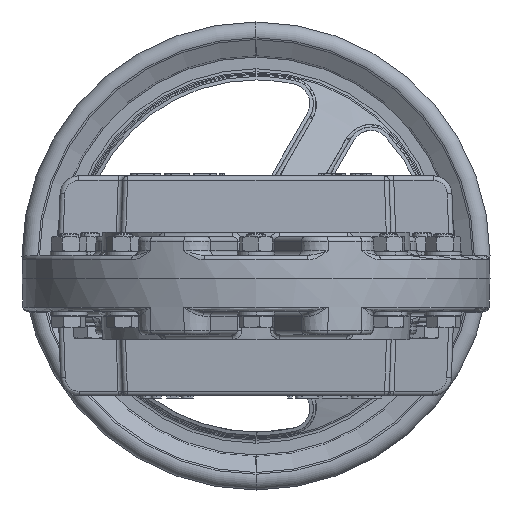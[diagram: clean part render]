
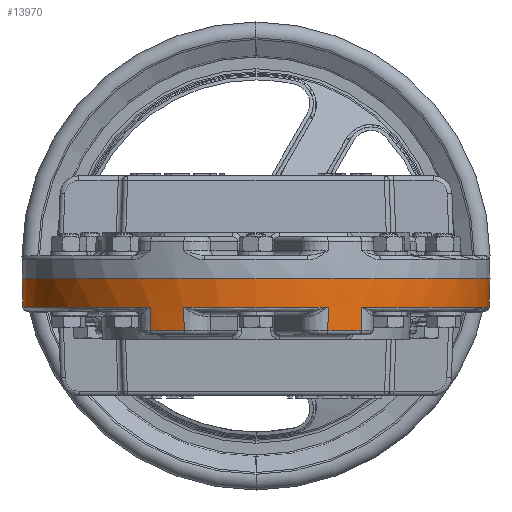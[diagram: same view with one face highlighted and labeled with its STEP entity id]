
A CAD part, front view. The second image highlights one B-rep face of the part: STEP entity #13970.
In plain terms, the highlighted conical face has half-angle 2 degrees and reference radius 100 mm.
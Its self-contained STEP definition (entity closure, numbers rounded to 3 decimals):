
#1141 = CIRCLE ( 'NONE', #76882, 99.229 ) ;
#2287 = CARTESIAN_POINT ( 'NONE',  ( -45.147, -88.756, -12.07 ) ) ;
#4383 = EDGE_LOOP ( 'NONE', ( #92601, #99309, #100692, #23362, #14031, #12632, #106671, #82502, #26045, #54746, #107203, #29369 ) ) ;
#6001 = VERTEX_POINT ( 'NONE', #44372 ) ;
#6103 = LINE ( 'NONE', #19282, #51750 ) ;
#6652 = CARTESIAN_POINT ( 'NONE',  ( 30.967, -95.085, 0. ) ) ;
#8513 = DIRECTION ( 'NONE',  ( 0., 0., 1. ) ) ;
#10913 = CARTESIAN_POINT ( 'NONE',  ( 0., 0., -22.07 ) ) ;
#10975 = VERTEX_POINT ( 'NONE', #67203 ) ;
#12632 = ORIENTED_EDGE ( 'NONE', *, *, #83807, .F. ) ;
#13844 = CARTESIAN_POINT ( 'NONE',  ( -30.728, -94.352, -22.07 ) ) ;
#13935 = CARTESIAN_POINT ( 'NONE',  ( -44.989, -88.445, -22.07 ) ) ;
#13970 = ADVANCED_FACE ( 'NONE', ( #39340 ), #71573, .T. ) ;
#14031 = ORIENTED_EDGE ( 'NONE', *, *, #89592, .T. ) ;
#15637 = DIRECTION ( 'NONE',  ( 0., 0., 1. ) ) ;
#18528 = EDGE_CURVE ( 'NONE', #47439, #52957, #99032, .T. ) ;
#19282 = CARTESIAN_POINT ( 'NONE',  ( 100., 0., 0. ) ) ;
#19543 = DIRECTION ( 'NONE',  ( 1., 0., 0. ) ) ;
#20119 = AXIS2_PLACEMENT_3D ( 'NONE', #78760, #27287, #87437 ) ;
#20617 = VECTOR ( 'NONE', #58038, 1000. ) ;
#22641 = EDGE_CURVE ( 'NONE', #10975, #6001, #24337, .T. ) ;
#23362 = ORIENTED_EDGE ( 'NONE', *, *, #29865, .F. ) ;
#24337 = CIRCLE ( 'NONE', #87710, 99.229 ) ;
#26039 = VERTEX_POINT ( 'NONE', #89736 ) ;
#26045 = ORIENTED_EDGE ( 'NONE', *, *, #74385, .T. ) ;
#27287 = DIRECTION ( 'NONE',  ( 0., 0., 1. ) ) ;
#28338 = EDGE_CURVE ( 'NONE', #10975, #82417, #109255, .T. ) ;
#28769 = AXIS2_PLACEMENT_3D ( 'NONE', #58356, #15637, #76037 ) ;
#29369 = ORIENTED_EDGE ( 'NONE', *, *, #99653, .T. ) ;
#29865 = EDGE_CURVE ( 'NONE', #54764, #26039, #37516, .T. ) ;
#30365 = CARTESIAN_POINT ( 'NONE',  ( -100., 0., 0. ) ) ;
#31480 = CARTESIAN_POINT ( 'NONE',  ( -30.967, -95.085, 0. ) ) ;
#32021 = DIRECTION ( 'NONE',  ( -0.016, -0.031, 0.999 ) ) ;
#34643 = CARTESIAN_POINT ( 'NONE',  ( 0., 0., 0. ) ) ;
#35450 = EDGE_CURVE ( 'NONE', #42977, #26039, #55870, .T. ) ;
#35551 = EDGE_CURVE ( 'NONE', #52957, #42977, #6103, .T. ) ;
#37516 = LINE ( 'NONE', #30365, #103361 ) ;
#37757 = EDGE_CURVE ( 'NONE', #84854, #77020, #41279, .T. ) ;
#39264 = CARTESIAN_POINT ( 'NONE',  ( 100., 0., 0. ) ) ;
#39340 = FACE_OUTER_BOUND ( 'NONE', #4383, .T. ) ;
#39734 = DIRECTION ( 'NONE',  ( 0., 0., 1. ) ) ;
#39760 = LINE ( 'NONE', #109802, #82821 ) ;
#41279 = LINE ( 'NONE', #31480, #87025 ) ;
#42977 = VERTEX_POINT ( 'NONE', #39264 ) ;
#43242 = DIRECTION ( 'NONE',  ( -1., 0., 0. ) ) ;
#44372 = CARTESIAN_POINT ( 'NONE',  ( 44.989, -88.445, -22.07 ) ) ;
#45691 = VERTEX_POINT ( 'NONE', #13935 ) ;
#46062 = CARTESIAN_POINT ( 'NONE',  ( 0., 0., -22.07 ) ) ;
#47439 = VERTEX_POINT ( 'NONE', #100817 ) ;
#48483 = VERTEX_POINT ( 'NONE', #2287 ) ;
#49186 = EDGE_CURVE ( 'NONE', #45691, #84854, #1141, .T. ) ;
#51750 = VECTOR ( 'NONE', #62039, 1000. ) ;
#52957 = VERTEX_POINT ( 'NONE', #97652 ) ;
#54687 = DIRECTION ( 'NONE',  ( 1., 0., 0. ) ) ;
#54746 = ORIENTED_EDGE ( 'NONE', *, *, #28338, .F. ) ;
#54764 = VERTEX_POINT ( 'NONE', #63470 ) ;
#55870 = CIRCLE ( 'NONE', #87411, 100. ) ;
#58038 = DIRECTION ( 'NONE',  ( 0.011, -0.033, 0.999 ) ) ;
#58356 = CARTESIAN_POINT ( 'NONE',  ( 0., 0., 0. ) ) ;
#59945 = CARTESIAN_POINT ( 'NONE',  ( 0., 0., -12.07 ) ) ;
#62039 = DIRECTION ( 'NONE',  ( 0.035, 0., 0.999 ) ) ;
#63470 = CARTESIAN_POINT ( 'NONE',  ( -99.579, 0., -12.07 ) ) ;
#67203 = CARTESIAN_POINT ( 'NONE',  ( 30.728, -94.352, -22.07 ) ) ;
#68566 = DIRECTION ( 'NONE',  ( 1., 0., 0. ) ) ;
#70895 = DIRECTION ( 'NONE',  ( 0., 0., 1. ) ) ;
#71573 = CONICAL_SURFACE ( 'NONE', #28769, 100., 0.035 ) ;
#74385 = EDGE_CURVE ( 'NONE', #77020, #82417, #89659, .T. ) ;
#75120 = CARTESIAN_POINT ( 'NONE',  ( 30.836, -94.684, -12.07 ) ) ;
#76037 = DIRECTION ( 'NONE',  ( -1., 0., 0. ) ) ;
#76882 = AXIS2_PLACEMENT_3D ( 'NONE', #46062, #106203, #54687 ) ;
#77020 = VERTEX_POINT ( 'NONE', #99332 ) ;
#78760 = CARTESIAN_POINT ( 'NONE',  ( 0., 0., -12.07 ) ) ;
#79197 = CARTESIAN_POINT ( 'NONE',  ( 45.338, -89.132, 0. ) ) ;
#82417 = VERTEX_POINT ( 'NONE', #75120 ) ;
#82502 = ORIENTED_EDGE ( 'NONE', *, *, #37757, .T. ) ;
#82821 = VECTOR ( 'NONE', #32021, 1000. ) ;
#83807 = EDGE_CURVE ( 'NONE', #45691, #48483, #39760, .T. ) ;
#84854 = VERTEX_POINT ( 'NONE', #13844 ) ;
#87025 = VECTOR ( 'NONE', #91588, 1000. ) ;
#87411 = AXIS2_PLACEMENT_3D ( 'NONE', #34643, #94768, #43242 ) ;
#87437 = DIRECTION ( 'NONE',  ( 1., 0., 0. ) ) ;
#87710 = AXIS2_PLACEMENT_3D ( 'NONE', #10913, #70895, #19543 ) ;
#89592 = EDGE_CURVE ( 'NONE', #54764, #48483, #95939, .T. ) ;
#89659 = CIRCLE ( 'NONE', #20119, 99.579 ) ;
#89736 = CARTESIAN_POINT ( 'NONE',  ( -100., 0., 0. ) ) ;
#90483 = DIRECTION ( 'NONE',  ( -0.035, 0., 0.999 ) ) ;
#91245 = CARTESIAN_POINT ( 'NONE',  ( 0., 0., -12.07 ) ) ;
#91588 = DIRECTION ( 'NONE',  ( -0.011, -0.033, 0.999 ) ) ;
#92601 = ORIENTED_EDGE ( 'NONE', *, *, #18528, .T. ) ;
#94768 = DIRECTION ( 'NONE',  ( 0., 0., -1. ) ) ;
#95939 = CIRCLE ( 'NONE', #107687, 99.579 ) ;
#96103 = DIRECTION ( 'NONE',  ( 0.016, -0.031, 0.999 ) ) ;
#97652 = CARTESIAN_POINT ( 'NONE',  ( 99.579, 0., -12.07 ) ) ;
#99032 = CIRCLE ( 'NONE', #110078, 99.579 ) ;
#99309 = ORIENTED_EDGE ( 'NONE', *, *, #35551, .T. ) ;
#99332 = CARTESIAN_POINT ( 'NONE',  ( -30.836, -94.684, -12.07 ) ) ;
#99653 = EDGE_CURVE ( 'NONE', #6001, #47439, #109520, .T. ) ;
#99891 = DIRECTION ( 'NONE',  ( 1., 0., 0. ) ) ;
#100692 = ORIENTED_EDGE ( 'NONE', *, *, #35450, .T. ) ;
#100817 = CARTESIAN_POINT ( 'NONE',  ( 45.147, -88.756, -12.07 ) ) ;
#103361 = VECTOR ( 'NONE', #90483, 1000. ) ;
#106203 = DIRECTION ( 'NONE',  ( 0., 0., 1. ) ) ;
#106671 = ORIENTED_EDGE ( 'NONE', *, *, #49186, .T. ) ;
#106863 = VECTOR ( 'NONE', #96103, 1000. ) ;
#107203 = ORIENTED_EDGE ( 'NONE', *, *, #22641, .T. ) ;
#107687 = AXIS2_PLACEMENT_3D ( 'NONE', #91245, #39734, #99891 ) ;
#109255 = LINE ( 'NONE', #6652, #20617 ) ;
#109520 = LINE ( 'NONE', #79197, #106863 ) ;
#109802 = CARTESIAN_POINT ( 'NONE',  ( -45.338, -89.132, 0. ) ) ;
#110078 = AXIS2_PLACEMENT_3D ( 'NONE', #59945, #8513, #68566 ) ;
